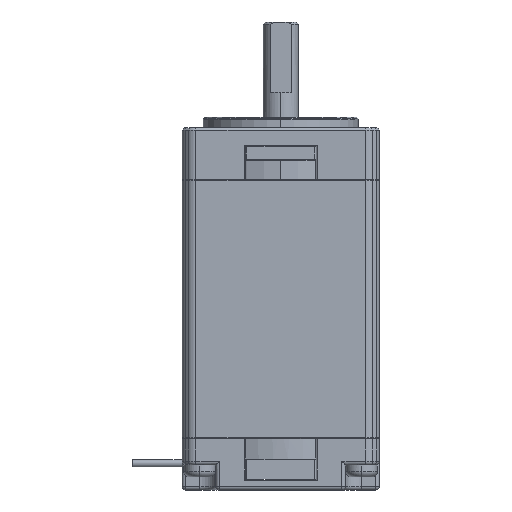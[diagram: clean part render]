
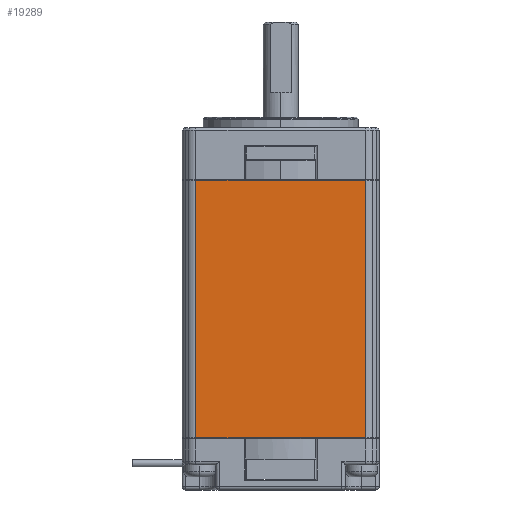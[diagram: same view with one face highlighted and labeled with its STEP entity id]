
A CAD part, left-side view. The second image highlights one B-rep face of the part: STEP entity #19289.
In plain terms, the highlighted planar face has unit normal (-1, 0, 0).
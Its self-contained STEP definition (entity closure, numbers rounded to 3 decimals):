
#1071 = AXIS2_PLACEMENT_3D ( 'NONE', #8989, #8990, #8991 ) ;
#2344 = VECTOR ( 'NONE', #13832, 1000. ) ;
#2438 = VECTOR ( 'NONE', #13994, 1000. ) ;
#2444 = VECTOR ( 'NONE', #14005, 1000. ) ;
#2445 = VECTOR ( 'NONE', #14007, 1000. ) ;
#7442 = VERTEX_POINT ( 'NONE', #16672 ) ;
#7572 = VERTEX_POINT ( 'NONE', #17078 ) ;
#7579 = VERTEX_POINT ( 'NONE', #17266 ) ;
#7685 = VERTEX_POINT ( 'NONE', #16740 ) ;
#8988 = PLANE ( 'NONE',  #1071 ) ;
#8989 = CARTESIAN_POINT ( 'NONE',  ( -14., 12.032, -36.75 ) ) ;
#8990 = DIRECTION ( 'NONE',  ( -1., 0., 0. ) ) ;
#8991 = DIRECTION ( 'NONE',  ( 0., 0., 1. ) ) ;
#11099 = LINE ( 'NONE', #13831, #2344 ) ;
#11141 = LINE ( 'NONE', #13993, #2438 ) ;
#11145 = LINE ( 'NONE', #14004, #2444 ) ;
#11146 = LINE ( 'NONE', #14006, #2445 ) ;
#11510 = FACE_OUTER_BOUND ( 'NONE', #19622, .T. ) ;
#13277 = ORIENTED_EDGE ( 'NONE', *, *, #17084, .T. ) ;
#13280 = ORIENTED_EDGE ( 'NONE', *, *, #17083, .T. ) ;
#13286 = ORIENTED_EDGE ( 'NONE', *, *, #17076, .T. ) ;
#13289 = ORIENTED_EDGE ( 'NONE', *, *, #16973, .F. ) ;
#13831 = CARTESIAN_POINT ( 'NONE',  ( -14., 12.032, -36.75 ) ) ;
#13832 = DIRECTION ( 'NONE',  ( 0., 0., 1. ) ) ;
#13993 = CARTESIAN_POINT ( 'NONE',  ( -14., -12.032, -36.75 ) ) ;
#13994 = DIRECTION ( 'NONE',  ( 0., 0., 1. ) ) ;
#14004 = CARTESIAN_POINT ( 'NONE',  ( -14., 12.032, -36.65 ) ) ;
#14005 = DIRECTION ( 'NONE',  ( 0., -1., 0. ) ) ;
#14006 = CARTESIAN_POINT ( 'NONE',  ( -14., 12.032, -0.05 ) ) ;
#14007 = DIRECTION ( 'NONE',  ( 0., 1., 0. ) ) ;
#16672 = CARTESIAN_POINT ( 'NONE',  ( -14., 12.032, -36.65 ) ) ;
#16740 = CARTESIAN_POINT ( 'NONE',  ( -14., 12.032, -0.05 ) ) ;
#16973 = EDGE_CURVE ( 'NONE', #7442, #7685, #11099, .T. ) ;
#17076 = EDGE_CURVE ( 'NONE', #7579, #7572, #11141, .T. ) ;
#17078 = CARTESIAN_POINT ( 'NONE',  ( -14., -12.032, -0.05 ) ) ;
#17083 = EDGE_CURVE ( 'NONE', #7442, #7579, #11145, .T. ) ;
#17084 = EDGE_CURVE ( 'NONE', #7572, #7685, #11146, .T. ) ;
#17266 = CARTESIAN_POINT ( 'NONE',  ( -14., -12.032, -36.65 ) ) ;
#19289 = ADVANCED_FACE ( 'NONE', ( #11510 ), #8988, .T. ) ;
#19622 = EDGE_LOOP ( 'NONE', ( #13289, #13280, #13286, #13277 ) ) ;
